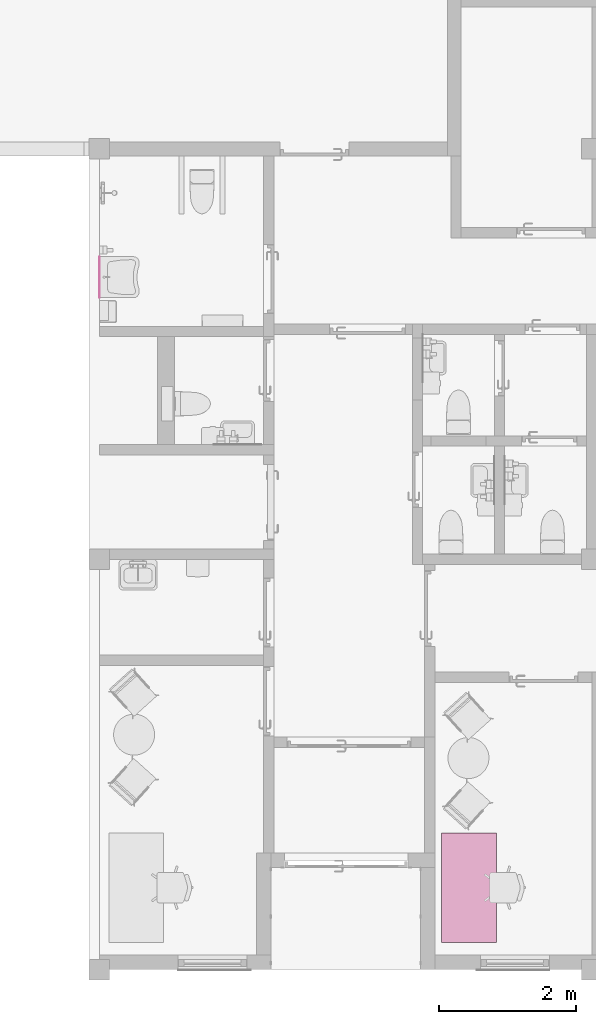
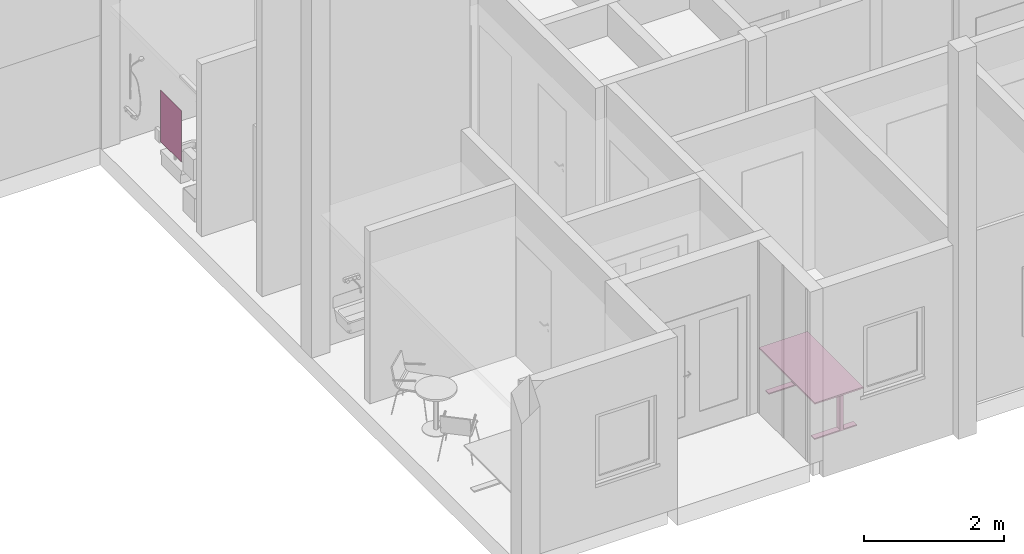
# One storey, part 43 of 58: 2 furnishings.
"""IFC2X3 building model written with IfcOpenShell, lengths in millimetres."""

import ifcopenshell
import ifcopenshell.guid

model = None  # the IFC model being written
_history = None  # IfcOwnerHistory: only IFC2X3 demands one
_inside = {}  # id of a spatial element -> (the spatial element, [elements in it])
_under = {}  # id of a project, library or spatial element -> (it, [spatial elements below it])
_declared = {}  # id of a project -> (the project, [libraries it declares])
_typed = {}  # id of a type object -> (the type object, [elements of that type])
_made_of = {}  # id of a material, layer set ... -> (it, [elements and type objects made of it])


def new_model(schema):
    """Start an empty IFC model of exactly this schema.

    Asked for "IFC4X3", IfcOpenShell would pick the latest addendum, in which some entities
    have other attributes; the version numbers below select the first issue.
    IFC2X3 requires an IfcOwnerHistory on every rooted entity: one is made here for all.
    """
    global model, _history
    if schema == "IFC4X3":
        model = ifcopenshell.file(schema_version=(4, 3, 0, 0))
    else:
        model = ifcopenshell.file(schema=schema)
    _inside.clear()
    _under.clear()
    _declared.clear()
    _typed.clear()
    _made_of.clear()
    _history = None
    if model.schema == "IFC2X3":
        org = make("IfcOrganization", Name="unknown")
        user = make(
            "IfcPersonAndOrganization",
            ThePerson=make("IfcPerson", FamilyName="unknown"),
            TheOrganization=org,
        )
        app = make(
            "IfcApplication",
            ApplicationDeveloper=org,
            Version="unknown",
            ApplicationFullName="unknown",
            ApplicationIdentifier="unknown",
        )
        _history = make(
            "IfcOwnerHistory",
            OwningUser=user,
            OwningApplication=app,
            ChangeAction="ADDED",
            CreationDate=0,
        )
    return model


def make(cls, **values):
    """One entity of the class cls with the attributes given. An attribute that is None is left unset."""
    return model.create_entity(
        cls, **{name: value for name, value in values.items() if value is not None}
    )


def entity(cls, *values):
    """Any entity or typed value of the class cls, its attributes in the order of the schema. None: left unset."""
    e = model.create_entity(cls)
    for i, value in enumerate(values):
        if value is not None:
            e[i] = value
    return e


def rooted(cls, **values):
    """An entity with a GlobalId (a new one), such as an element, a storey or a relation."""
    return make(cls, GlobalId=ifcopenshell.guid.new(), OwnerHistory=_history, **values)


def si_unit(unit_type, name, prefix=None):
    """IfcSIUnit, for example si_unit("LENGTHUNIT", "METRE", prefix="MILLI")."""
    return make("IfcSIUnit", UnitType=unit_type, Prefix=prefix, Name=name)


def converted_unit(unit_type, name, factor, base, dimensions=None, offset=None):
    """IfcConversionBasedUnit, such as the inch: factor (a typed value) times the base unit."""
    return make(
        "IfcConversionBasedUnit"
        if offset is None
        else "IfcConversionBasedUnitWithOffset",
        ConversionOffset=offset,
        Dimensions=None
        if dimensions is None
        else entity("IfcDimensionalExponents", *dimensions),
        UnitType=unit_type,
        Name=name,
        ConversionFactor=make(
            "IfcMeasureWithUnit", ValueComponent=factor, UnitComponent=base
        ),
    )


def derived_unit(unit_type, elements):
    """IfcDerivedUnit: a product of units, each with its exponent."""
    return make(
        "IfcDerivedUnit",
        Elements=[
            make("IfcDerivedUnitElement", Unit=unit, Exponent=power)
            for unit, power in elements
        ],
        UnitType=unit_type,
    )


def assignment(units):
    """IfcUnitAssignment: the units of a project."""
    return None if units is None else make("IfcUnitAssignment", Units=units)


def point(xyz):
    """IfcCartesianPoint."""
    return None if xyz is None else make("IfcCartesianPoint", Coordinates=xyz)


def direction(xyz):
    """IfcDirection."""
    return None if xyz is None else make("IfcDirection", DirectionRatios=xyz)


def frame(location, z_axis=None, x_axis=None):
    """IfcAxis2Placement3D, a coordinate frame: its origin and axes. An axis left out is left unset."""
    return make(
        "IfcAxis2Placement3D",
        Location=point(location),
        Axis=direction(z_axis),
        RefDirection=direction(x_axis),
    )


def frame_2d(location, x_axis=None):
    """IfcAxis2Placement2D, a coordinate frame in the plane: its origin and x axis."""
    return make(
        "IfcAxis2Placement2D", Location=point(location), RefDirection=direction(x_axis)
    )


def origin():
    """The frame at (0, 0, 0) with its axes left unset."""
    return frame((0.0, 0.0, 0.0))


def origin_2d_with_axis():
    """The frame at (0, 0) in the plane with the x axis (1, 0) written out."""
    return frame_2d((0.0, 0.0), x_axis=(1.0, 0.0))


def place(relative_to, where):
    """IfcLocalPlacement: puts the frame where relative to a parent placement (None: the world)."""
    return make(
        "IfcLocalPlacement", PlacementRelTo=relative_to, RelativePlacement=where
    )


def context(
    kind, dimensions, precision=None, world=None, true_north=None, identifier=None
):
    """IfcGeometricRepresentationContext, for example the 3D "Model" context."""
    return make(
        "IfcGeometricRepresentationContext",
        ContextIdentifier=identifier,
        ContextType=kind,
        CoordinateSpaceDimension=dimensions,
        Precision=precision,
        WorldCoordinateSystem=world,
        TrueNorth=true_north,
    )


def subcontext(parent, identifier, kind, view, scale=None):
    """IfcGeometricRepresentationSubContext, for example "Body" below "Model"."""
    return make(
        "IfcGeometricRepresentationSubContext",
        ContextIdentifier=identifier,
        ContextType=kind,
        ParentContext=parent,
        TargetScale=scale,
        TargetView=view,
    )


def project(units=None, contexts=None):
    """IfcProject with its units and contexts."""
    return rooted(
        "IfcProject",
        Name="project",
        RepresentationContexts=contexts,
        UnitsInContext=assignment(units),
    )


def spatial(cls, under=None, at=None, **own):
    """A site, building, storey or space (cls), placed at a placement, below another one or the project."""
    s = rooted(cls, ObjectPlacement=at, **own)
    if under is not None:
        _under.setdefault(under.id(), (under, []))[1].append(s)
    return s


def profile(cls, at=None, kind="AREA", **sizes):
    """A parametric profile (cls). Its sizes go by their IFC names, for example OverallWidth=200.0."""
    return make(cls, ProfileType=kind, Position=at, **sizes)


def rectangle(**sizes):
    """IfcRectangleProfileDef."""
    return profile("IfcRectangleProfileDef", **sizes)


def extrude(swept, where, along, depth):
    """IfcExtrudedAreaSolid: the profile swept, set in the frame where, extruded along a direction by depth."""
    return make(
        "IfcExtrudedAreaSolid",
        SweptArea=swept,
        Position=where,
        ExtrudedDirection=direction(along),
        Depth=depth,
    )


def shape(context_of_items, identifier, shape_type, items):
    """IfcShapeRepresentation: the items that make up one representation, for example the "Body"."""
    return make(
        "IfcShapeRepresentation",
        ContextOfItems=context_of_items,
        RepresentationIdentifier=identifier,
        RepresentationType=shape_type,
        Items=items,
    )


def source(mapping_origin, context_of_items, identifier, shape_type, items):
    """IfcRepresentationMap: a shape defined once, which mapped items show again and again."""
    return make(
        "IfcRepresentationMap",
        MappingOrigin=mapping_origin,
        MappedRepresentation=shape(context_of_items, identifier, shape_type, items),
    )


def transform(
    local_origin,
    x_axis=None,
    y_axis=None,
    z_axis=None,
    scale=None,
    scale2=None,
    scale3=None,
    uniform=True,
):
    """IfcCartesianTransformationOperator3D, or its non-uniform kind. x_axis, y_axis, z_axis: its Axis1, 2, 3."""
    if uniform:
        return make(
            "IfcCartesianTransformationOperator3D",
            Axis1=direction(x_axis),
            Axis2=direction(y_axis),
            LocalOrigin=point(local_origin),
            Scale=scale,
            Axis3=direction(z_axis),
        )
    return make(
        "IfcCartesianTransformationOperator3DnonUniform",
        Axis1=direction(x_axis),
        Axis2=direction(y_axis),
        LocalOrigin=point(local_origin),
        Scale=scale,
        Axis3=direction(z_axis),
        Scale2=scale2,
        Scale3=scale3,
    )


def mapped(mapping_source, mapping_target):
    """IfcMappedItem: shows the shape of a source again, moved by a transform."""
    return make(
        "IfcMappedItem", MappingSource=mapping_source, MappingTarget=mapping_target
    )


def material(Name=None, Category=None):
    """IfcMaterial."""
    return make("IfcMaterial", Name=Name, Category=Category)


def material_list(materials):
    """IfcMaterialList."""
    return make("IfcMaterialList", Materials=materials)


def made_of(thing, what):
    """Note that an element or type object is made of a material, layer set ...; save() writes the relation."""
    if what is not None:
        _made_of.setdefault(what.id(), (what, []))[1].append(thing)
    return thing


def type_object(cls, material=None, **own):
    """A type object (cls), such as IfcWallType, which elements share."""
    return made_of(rooted(cls, **own), material)


def type_shapes(of_type, sources):
    """Give a type object the sources (RepresentationMaps) that its elements show as mapped items."""
    of_type.RepresentationMaps = sources


def element(
    cls,
    number,
    at=None,
    inside=None,
    cuts=None,
    type_object=None,
    material=None,
    context=None,
    identifier="Body",
    shape_type=None,
    held_by="IfcProductDefinitionShape",
    body=None,
    shapes=None,
    **own,
):
    """One element of the class cls, such as IfcWall. Its Tag is "e" and its number.

    at: its placement. inside: the storey or other place that contains it. cuts: it is an
    opening in that element (IfcRelVoidsElement). A single representation is given by context,
    identifier, shape_type and body (its items); several are given by shapes. held_by: the class
    of the entity that holds the representations. save() writes the other relations.
    """
    e = rooted(cls, Tag="e%d" % number, ObjectPlacement=at, **own)
    if body is not None:
        shapes = [shape(context, identifier, shape_type, body)]
    if shapes is not None:
        e.Representation = make(held_by, Representations=shapes)
    if inside is not None:
        _inside.setdefault(inside.id(), (inside, []))[1].append(e)
    if cuts is not None:
        rooted(
            "IfcRelVoidsElement", RelatingBuildingElement=cuts, RelatedOpeningElement=e
        )
    if type_object is not None:
        _typed.setdefault(type_object.id(), (type_object, []))[1].append(e)
    return made_of(e, material)


def aggregate(whole, parts):
    """IfcRelAggregates: a whole, such as a stair, and the parts it consists of."""
    return rooted("IfcRelAggregates", RelatingObject=whole, RelatedObjects=parts)


def save(model, path):
    """Write the relations noted so far, then the file.

    IfcRelAggregates (storeys below a building ...), IfcRelContainedInSpatialStructure (elements
    in a storey), IfcRelDefinesByType, IfcRelAssociatesMaterial and IfcRelDeclares: one each for
    every whole, place, type object, material and project.
    """
    for whole, parts in _under.values():
        aggregate(whole, parts)
    for where, things in _inside.values():
        rooted(
            "IfcRelContainedInSpatialStructure",
            RelatedElements=things,
            RelatingStructure=where,
        )
    for kind, things in _typed.values():
        rooted("IfcRelDefinesByType", RelatedObjects=things, RelatingType=kind)
    for what, things in _made_of.values():
        rooted("IfcRelAssociatesMaterial", RelatedObjects=things, RelatingMaterial=what)
    for by, libraries in _declared.values():
        rooted("IfcRelDeclares", RelatingContext=by, RelatedDefinitions=libraries)
    model.write(path)


model = new_model("IFC2X3")

# Units and contexts
model_context = context("Model", 3, precision=0.01, world=origin(), true_north=direction((0.7716245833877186, 0.6360782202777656)))
body_context = subcontext(model_context, "Body", "Model", "MODEL_VIEW")
ifc_project = project(units=[si_unit("LENGTHUNIT", "METRE", prefix="MILLI"), si_unit("AREAUNIT", "SQUARE_METRE"), converted_unit("PLANEANGLEUNIT", "DEGREE", entity("IfcPlaneAngleMeasure", 0.017453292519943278), si_unit("PLANEANGLEUNIT", "RADIAN"), dimensions=[0, 0, 0, 0, 0, 0, 0]), derived_unit("THERMALTRANSMITTANCEUNIT", [(si_unit("MASSUNIT", "GRAM", prefix="KILO"), 1), (si_unit("THERMODYNAMICTEMPERATUREUNIT", "KELVIN"), -1), (si_unit("TIMEUNIT", "SECOND"), -3)])], contexts=[model_context])

# Site, building, storey, space
site_placement = place(None, origin())
site = spatial("IfcSite", under=ifc_project, at=site_placement, Name="Default", CompositionType="ELEMENT")
building_placement = place(site_placement, origin())
building = spatial("IfcBuilding", under=site, at=building_placement, CompositionType="ELEMENT")
storey_placement = place(building_placement, frame((0.0, 0.0, 31140.0)))
storey = spatial("IfcBuildingStorey", under=building, at=storey_placement, Name="PLAN U1", CompositionType="ELEMENT", Elevation=31140.000000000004)
space_1_placement = place(storey_placement, origin())
space_1 = spatial("IfcSpace", under=storey, at=space_1_placement, Name="Kontor", CompositionType="ELEMENT", InteriorOrExteriorSpace="INTERNAL")

# Furnishing
ifc_material_1 = material(Name="Metall")
ifc_material_2 = material(Name="Plate")
ifc_material_list = material_list([ifc_material_1, ifc_material_2])
furniture_type_1 = type_object("IfcFurnitureType", Name="Arbeidsbord_elektrisk_hevsenk:Arbbord 800x1600", AssemblyPlace="NOTDEFINED", material=ifc_material_list)
shared_shape_1 = source(origin(), body_context, "Body", "SweptSolid", [
    extrude(rectangle(XDim=50.0, YDim=99.99999999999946, at=origin_2d_with_axis()), frame((650.0, 300.0, 20.0), z_axis=(0.0, 0.0, 1.0), x_axis=(0.0, -1.0, 0.0)), (0.0, 0.0, 1.0), 674.9999999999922),
    extrude(rectangle(XDim=50.0, YDim=99.99999999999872, at=frame_2d((0.0, 3.552713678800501e-14), x_axis=(1.0, 0.0))), frame((-650.0, 300.0, 20.0), z_axis=(0.0, 0.0, 1.0), x_axis=(0.0, -1.0, 0.0)), (0.0, 0.0, 1.0), 674.9999999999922),
    extrude(rectangle(XDim=699.9999999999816, YDim=99.99999999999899, at=frame_2d((0.0, 3.552713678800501e-14), x_axis=(1.0, 0.0))), frame((650.0, 400.0, 0.0), z_axis=(0.0, 0.0, 1.0), x_axis=(0.0, 1.0, 0.0)), (0.0, 0.0, 1.0), 19.999999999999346),
    extrude(rectangle(XDim=699.9999999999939, YDim=100.00000000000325, at=frame_2d((-2.842170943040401e-14, 0.0), x_axis=(1.0, 0.0))), frame((-650.0, 400.0, 0.0), z_axis=(0.0, 0.0, 1.0), x_axis=(0.0, 1.0, 0.0)), (0.0, 0.0, 1.0), 19.999999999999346),
    extrude(rectangle(XDim=799.9999999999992, YDim=1599.9999999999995, at=origin_2d_with_axis()), frame((0.0, 400.0, 695.0), z_axis=(0.0, 0.0, 1.0), x_axis=(0.0, 1.0, 0.0)), (0.0, 0.0, 1.0), 25.00000000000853),
    extrude(rectangle(XDim=799.9999999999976, YDim=1599.9999999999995, at=origin_2d_with_axis()), frame((0.0, 400.0, 695.0), z_axis=(0.0, 0.0, 1.0), x_axis=(0.0, 1.0, 0.0)), (0.0, 0.0, 1.0), 25.00000000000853),
])
type_shapes(furniture_type_1, [shared_shape_1])
furnishing_1_placement = place(space_1_placement, frame((264520.70528904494, 54515.25555007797, 0.0), z_axis=(0.0, 0.0, 1.0), x_axis=(0.0, 1.0, 0.0)))
element("IfcFurnishingElement", 1, at=furnishing_1_placement, inside=space_1, type_object=furniture_type_1, material=ifc_material_list, Name="Arbeidsbord_elektrisk_hevsenk:Arbbord 800x1600", ObjectType="Arbeidsbord_elektrisk_hevsenk:Arbbord 800x1600", context=body_context, shape_type="MappedRepresentation", body=[
    mapped(shared_shape_1, transform((0.0, 0.0, 0.0), scale=1.0)),
])

# Space
space_2_placement = place(storey_placement, origin())
space_2 = spatial("IfcSpace", under=storey, at=space_2_placement, Name="B5-304", CompositionType="ELEMENT", InteriorOrExteriorSpace="INTERNAL")

# Furnishing
ifc_material_3 = material(Name="<Unnamed>")
furniture_type_2 = type_object("IfcFurnitureType", Name="279.xxx-Speil:Speil veggfast,600x900", AssemblyPlace="NOTDEFINED", material=ifc_material_3)
shared_shape_2 = source(origin(), body_context, "Body", "SweptSolid", [
    extrude(rectangle(XDim=2.0, YDim=600.0000000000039, at=origin_2d_with_axis()), frame((0.0, 4.0, 0.0), z_axis=(0.0, 0.0, 1.0), x_axis=(0.0, 1.0, 0.0)), (0.0, 0.0, 1.0), 899.9999999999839),
])
type_shapes(furniture_type_2, [shared_shape_2])
furnishing_2_placement = place(space_2_placement, frame((258722.92444647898, 63440.72307172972, 950.0), z_axis=(0.0, 0.0, 1.0), x_axis=(0.0, 1.0, 0.0)))
element("IfcFurnishingElement", 2, at=furnishing_2_placement, inside=space_2, type_object=furniture_type_2, material=ifc_material_3, Name="279.xxx-Speil:Speil veggfast,600x900", ObjectType="279.xxx-Speil:Speil veggfast,600x900", context=body_context, shape_type="MappedRepresentation", body=[
    mapped(shared_shape_2, transform((0.0, 0.0, 0.0), scale=1.0)),
])

save(model, "model.ifc")
